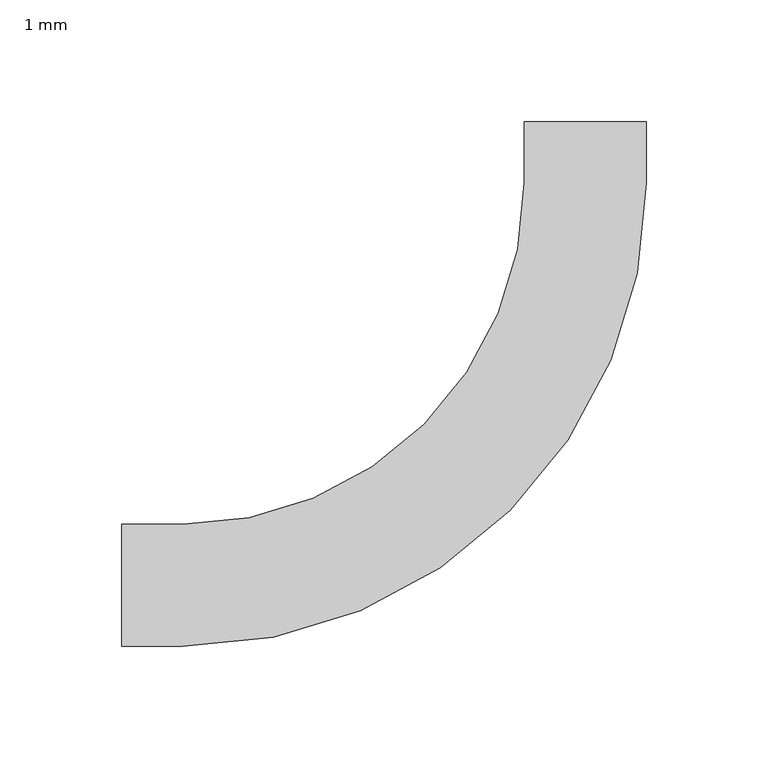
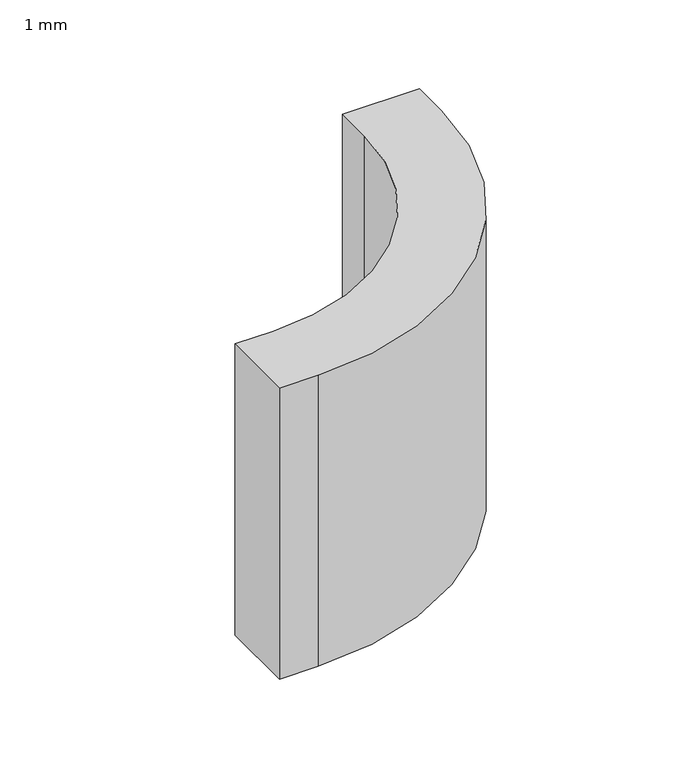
"""IFC4 building model written with IfcOpenShell, lengths in millimetres: cable carrier fitting geometry, BAKS_Łuk_koryta_pionowy (R140)w : 1 mm."""

import ifcopenshell
import ifcopenshell.guid

model = None  # the IFC model being written
_history = None  # IfcOwnerHistory: only IFC2X3 demands one
_inside = {}  # id of a spatial element -> (the spatial element, [elements in it])
_under = {}  # id of a project, library or spatial element -> (it, [spatial elements below it])
_declared = {}  # id of a project -> (the project, [libraries it declares])
_typed = {}  # id of a type object -> (the type object, [elements of that type])
_made_of = {}  # id of a material, layer set ... -> (it, [elements and type objects made of it])


def new_model(schema):
    """Start an empty IFC model of exactly this schema.

    Asked for "IFC4X3", IfcOpenShell would pick the latest addendum, in which some entities
    have other attributes; the version numbers below select the first issue.
    IFC2X3 requires an IfcOwnerHistory on every rooted entity: one is made here for all.
    """
    global model, _history
    if schema == "IFC4X3":
        model = ifcopenshell.file(schema_version=(4, 3, 0, 0))
    else:
        model = ifcopenshell.file(schema=schema)
    _inside.clear()
    _under.clear()
    _declared.clear()
    _typed.clear()
    _made_of.clear()
    _history = None
    if model.schema == "IFC2X3":
        org = make("IfcOrganization", Name="unknown")
        user = make(
            "IfcPersonAndOrganization",
            ThePerson=make("IfcPerson", FamilyName="unknown"),
            TheOrganization=org,
        )
        app = make(
            "IfcApplication",
            ApplicationDeveloper=org,
            Version="unknown",
            ApplicationFullName="unknown",
            ApplicationIdentifier="unknown",
        )
        _history = make(
            "IfcOwnerHistory",
            OwningUser=user,
            OwningApplication=app,
            ChangeAction="ADDED",
            CreationDate=0,
        )
    return model


def make(cls, **values):
    """One entity of the class cls with the attributes given. An attribute that is None is left unset."""
    return model.create_entity(
        cls, **{name: value for name, value in values.items() if value is not None}
    )


def rooted(cls, **values):
    """An entity with a GlobalId (a new one), such as an element, a storey or a relation."""
    return make(cls, GlobalId=ifcopenshell.guid.new(), OwnerHistory=_history, **values)


def si_unit(unit_type, name, prefix=None):
    """IfcSIUnit, for example si_unit("LENGTHUNIT", "METRE", prefix="MILLI")."""
    return make("IfcSIUnit", UnitType=unit_type, Prefix=prefix, Name=name)


def assignment(units):
    """IfcUnitAssignment: the units of a project."""
    return None if units is None else make("IfcUnitAssignment", Units=units)


def point(xyz):
    """IfcCartesianPoint."""
    return None if xyz is None else make("IfcCartesianPoint", Coordinates=xyz)


def direction(xyz):
    """IfcDirection."""
    return None if xyz is None else make("IfcDirection", DirectionRatios=xyz)


def frame(location, z_axis=None, x_axis=None):
    """IfcAxis2Placement3D, a coordinate frame: its origin and axes. An axis left out is left unset."""
    return make(
        "IfcAxis2Placement3D",
        Location=point(location),
        Axis=direction(z_axis),
        RefDirection=direction(x_axis),
    )


def frame_2d(location, x_axis=None):
    """IfcAxis2Placement2D, a coordinate frame in the plane: its origin and x axis."""
    return make(
        "IfcAxis2Placement2D", Location=point(location), RefDirection=direction(x_axis)
    )


def origin():
    """The frame at (0, 0, 0) with its axes left unset."""
    return frame((0.0, 0.0, 0.0))


def place(relative_to, where):
    """IfcLocalPlacement: puts the frame where relative to a parent placement (None: the world)."""
    return make(
        "IfcLocalPlacement", PlacementRelTo=relative_to, RelativePlacement=where
    )


def context(
    kind, dimensions, precision=None, world=None, true_north=None, identifier=None
):
    """IfcGeometricRepresentationContext, for example the 3D "Model" context."""
    return make(
        "IfcGeometricRepresentationContext",
        ContextIdentifier=identifier,
        ContextType=kind,
        CoordinateSpaceDimension=dimensions,
        Precision=precision,
        WorldCoordinateSystem=world,
        TrueNorth=true_north,
    )


def project(units=None, contexts=None):
    """IfcProject with its units and contexts."""
    return rooted(
        "IfcProject",
        Name="project",
        RepresentationContexts=contexts,
        UnitsInContext=assignment(units),
    )


def spatial(cls, under=None, at=None, **own):
    """A site, building, storey or space (cls), placed at a placement, below another one or the project."""
    s = rooted(cls, ObjectPlacement=at, **own)
    if under is not None:
        _under.setdefault(under.id(), (under, []))[1].append(s)
    return s


def polyline(points):
    """IfcPolyline through the points."""
    return make("IfcPolyline", Points=[point(p) for p in points])


def circle_curve(where, radius):
    """IfcCircle in the frame where."""
    return make("IfcCircle", Position=where, Radius=radius)


def trimmed(basis, trim1, trim2, sense, master):
    """IfcTrimmedCurve: the piece of a basis curve between two trims."""
    return make(
        "IfcTrimmedCurve",
        BasisCurve=basis,
        Trim1=trim1,
        Trim2=trim2,
        SenseAgreement=sense,
        MasterRepresentation=master,
    )


def segment(curve, same_sense, transition):
    """IfcCompositeCurveSegment."""
    return make(
        "IfcCompositeCurveSegment",
        Transition=transition,
        SameSense=same_sense,
        ParentCurve=curve,
    )


def composite_curve(segments, self_intersect=None):
    """IfcCompositeCurve: segments joined end to end."""
    return make("IfcCompositeCurve", Segments=segments, SelfIntersect=self_intersect)


def outline(outer, holes=None, kind="AREA"):
    """IfcArbitraryClosedProfileDef: a profile drawn as a closed curve; with holes, ...WithVoids."""
    if holes is None:
        return make("IfcArbitraryClosedProfileDef", ProfileType=kind, OuterCurve=outer)
    return make(
        "IfcArbitraryProfileDefWithVoids",
        ProfileType=kind,
        OuterCurve=outer,
        InnerCurves=holes,
    )


def extrude(swept, where, along, depth):
    """IfcExtrudedAreaSolid: the profile swept, set in the frame where, extruded along a direction by depth."""
    return make(
        "IfcExtrudedAreaSolid",
        SweptArea=swept,
        Position=where,
        ExtrudedDirection=direction(along),
        Depth=depth,
    )


def shape(context_of_items, identifier, shape_type, items):
    """IfcShapeRepresentation: the items that make up one representation, for example the "Body"."""
    return make(
        "IfcShapeRepresentation",
        ContextOfItems=context_of_items,
        RepresentationIdentifier=identifier,
        RepresentationType=shape_type,
        Items=items,
    )


def source(mapping_origin, context_of_items, identifier, shape_type, items):
    """IfcRepresentationMap: a shape defined once, which mapped items show again and again."""
    return make(
        "IfcRepresentationMap",
        MappingOrigin=mapping_origin,
        MappedRepresentation=shape(context_of_items, identifier, shape_type, items),
    )


def transform(
    local_origin,
    x_axis=None,
    y_axis=None,
    z_axis=None,
    scale=None,
    scale2=None,
    scale3=None,
    uniform=True,
):
    """IfcCartesianTransformationOperator3D, or its non-uniform kind. x_axis, y_axis, z_axis: its Axis1, 2, 3."""
    if uniform:
        return make(
            "IfcCartesianTransformationOperator3D",
            Axis1=direction(x_axis),
            Axis2=direction(y_axis),
            LocalOrigin=point(local_origin),
            Scale=scale,
            Axis3=direction(z_axis),
        )
    return make(
        "IfcCartesianTransformationOperator3DnonUniform",
        Axis1=direction(x_axis),
        Axis2=direction(y_axis),
        LocalOrigin=point(local_origin),
        Scale=scale,
        Axis3=direction(z_axis),
        Scale2=scale2,
        Scale3=scale3,
    )


def mapped(mapping_source, mapping_target):
    """IfcMappedItem: shows the shape of a source again, moved by a transform."""
    return make(
        "IfcMappedItem", MappingSource=mapping_source, MappingTarget=mapping_target
    )


def made_of(thing, what):
    """Note that an element or type object is made of a material, layer set ...; save() writes the relation."""
    if what is not None:
        _made_of.setdefault(what.id(), (what, []))[1].append(thing)
    return thing


def element(
    cls,
    number,
    at=None,
    inside=None,
    cuts=None,
    type_object=None,
    material=None,
    context=None,
    identifier="Body",
    shape_type=None,
    held_by="IfcProductDefinitionShape",
    body=None,
    shapes=None,
    **own,
):
    """One element of the class cls, such as IfcWall. Its Tag is "e" and its number.

    at: its placement. inside: the storey or other place that contains it. cuts: it is an
    opening in that element (IfcRelVoidsElement). A single representation is given by context,
    identifier, shape_type and body (its items); several are given by shapes. held_by: the class
    of the entity that holds the representations. save() writes the other relations.
    """
    e = rooted(cls, Tag="e%d" % number, ObjectPlacement=at, **own)
    if body is not None:
        shapes = [shape(context, identifier, shape_type, body)]
    if shapes is not None:
        e.Representation = make(held_by, Representations=shapes)
    if inside is not None:
        _inside.setdefault(inside.id(), (inside, []))[1].append(e)
    if cuts is not None:
        rooted(
            "IfcRelVoidsElement", RelatingBuildingElement=cuts, RelatedOpeningElement=e
        )
    if type_object is not None:
        _typed.setdefault(type_object.id(), (type_object, []))[1].append(e)
    return made_of(e, material)


def aggregate(whole, parts):
    """IfcRelAggregates: a whole, such as a stair, and the parts it consists of."""
    return rooted("IfcRelAggregates", RelatingObject=whole, RelatedObjects=parts)


def save(model, path):
    """Write the relations noted so far, then the file.

    IfcRelAggregates (storeys below a building ...), IfcRelContainedInSpatialStructure (elements
    in a storey), IfcRelDefinesByType, IfcRelAssociatesMaterial and IfcRelDeclares: one each for
    every whole, place, type object, material and project.
    """
    for whole, parts in _under.values():
        aggregate(whole, parts)
    for where, things in _inside.values():
        rooted(
            "IfcRelContainedInSpatialStructure",
            RelatedElements=things,
            RelatingStructure=where,
        )
    for kind, things in _typed.values():
        rooted("IfcRelDefinesByType", RelatedObjects=things, RelatingType=kind)
    for what, things in _made_of.values():
        rooted("IfcRelAssociatesMaterial", RelatedObjects=things, RelatingMaterial=what)
    for by, libraries in _declared.values():
        rooted("IfcRelDeclares", RelatingContext=by, RelatedDefinitions=libraries)
    model.write(path)


def cable_carrier_fitting_1_mm_9e154423(model_context):
    return source(origin(), model_context, "Body", "SweptSolid", [
        extrude(outline(composite_curve([segment(polyline([(-190.0, -25.0), (-190.0, 25.0), (-165.0, 25.0)]), True, "CONTINUOUS"), segment(trimmed(circle_curve(frame_2d((-165.0, 165.0)), 140.0), [point((-165.0, 25.0))], [point((-25.0, 165.0))], True, "CARTESIAN"), True, "CONTINUOUS"), segment(polyline([(-25.0, 165.0), (-25.0, 190.0), (25.0, 190.0), (25.0, 165.0)]), True, "CONTINUOUS"), segment(trimmed(circle_curve(frame_2d((-165.0, 165.0)), 190.0), [point((25.0, 165.0))], [point((-165.0, -25.0))], False, "CARTESIAN"), True, "CONTINUOUS"), segment(polyline([(-165.0, -25.0), (-190.0, -25.0)]), True, "CONTINUOUS")], self_intersect=False)), frame((0.0, 0.0, -100.0), z_axis=(0.0, 0.0, 1.0), x_axis=(1.0, 0.0, 0.0)), (0.0, 0.0, 1.0), 200.0),
    ])


if __name__ == "__main__":
    model = new_model("IFC4")
    model_context = context("Model", 3, world=origin())
    ifc_project = project(units=[si_unit("LENGTHUNIT", "METRE", prefix="MILLI")], contexts=[model_context])
    site = spatial("IfcSite", under=ifc_project)
    building = spatial("IfcBuilding", under=site)
    placement = place(None, origin())
    cable_carrier_fitting_1_mm_shape = cable_carrier_fitting_1_mm_9e154423(model_context)
    element("IfcCableCarrierFitting", 1, ObjectType="BAKS_Łuk_koryta_pionowy (R140)w : 1 mm", at=placement, inside=building, context=model_context, shape_type="MappedRepresentation", body=[
        mapped(cable_carrier_fitting_1_mm_shape, transform((0.0, 0.0, 0.0), x_axis=(1.0, 0.0, 0.0), y_axis=(0.0, 1.0, 0.0), z_axis=(0.0, 0.0, 1.0))),
    ])
    save(model, "model.ifc")
